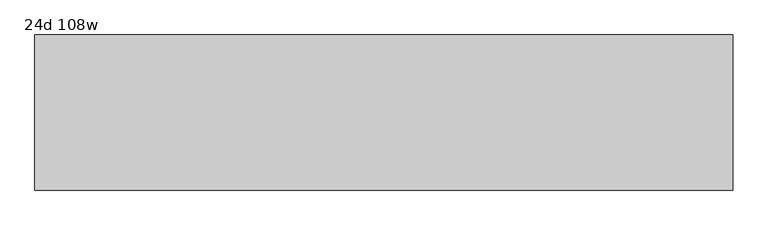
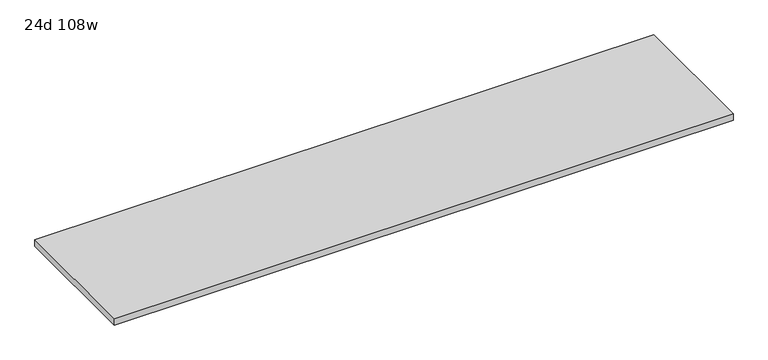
"""IFC4 building model written with IfcOpenShell, lengths in millimetres: furniture geometry, Haworth_BeHold_CommonTop : 24d 108w."""

from ifc_helpers import new_model, si_unit, frame, origin, place, context, project, spatial, polyline, outline, extrude, source, transform, mapped, element, save


def furniture_24d_108w_02e1e0e3(model_context):
    return source(origin(), model_context, "Body", "SweptSolid", [
        extrude(outline(polyline([(1214.7408447, 12.7), (1214.7408447, -596.9), (-1528.4591553, -596.9), (-1528.4591553, 12.7), (1214.7408447, 12.7)])), frame((0.0, 0.0, 711.2), z_axis=(0.0, 0.0, 1.0), x_axis=(1.0, 0.0, 0.0)), (0.0, 0.0, 1.0), 29.9640625),
    ])


if __name__ == "__main__":
    model = new_model("IFC4")
    model_context = context("Model", 3, world=origin())
    ifc_project = project(units=[si_unit("LENGTHUNIT", "METRE", prefix="MILLI")], contexts=[model_context])
    site = spatial("IfcSite", under=ifc_project)
    building = spatial("IfcBuilding", under=site)
    placement = place(None, origin())
    furniture_24d_108w_shape = furniture_24d_108w_02e1e0e3(model_context)
    element("IfcFurniture", 1, ObjectType="Haworth_BeHold_CommonTop : 24d 108w", at=placement, inside=building, context=model_context, shape_type="MappedRepresentation", body=[
        mapped(furniture_24d_108w_shape, transform((0.0, 0.0, 0.0), x_axis=(1.0, 0.0, 0.0), y_axis=(0.0, 1.0, 0.0), z_axis=(0.0, 0.0, 1.0))),
    ])
    save(model, "model.ifc")
